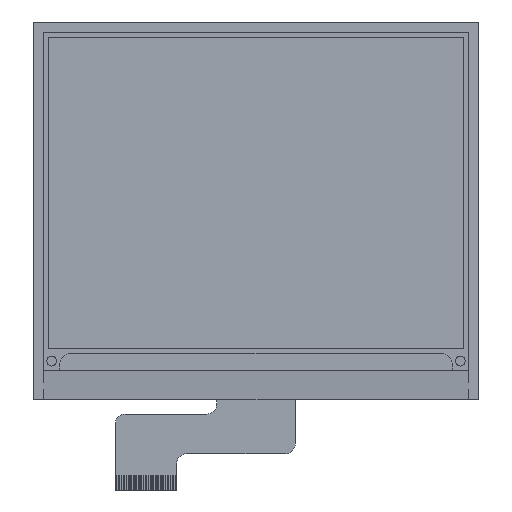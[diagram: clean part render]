
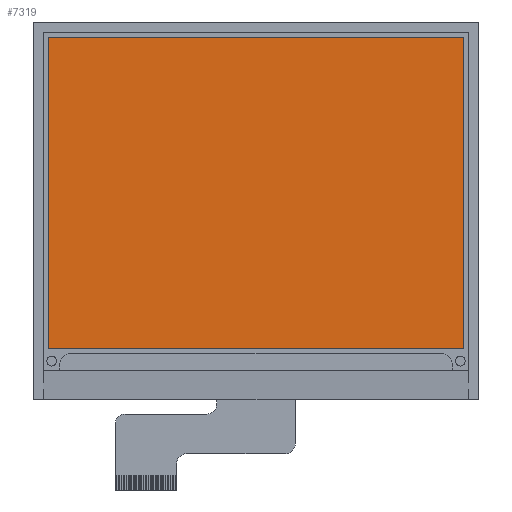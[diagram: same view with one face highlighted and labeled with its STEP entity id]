
A CAD part, top view. The second image highlights one B-rep face of the part: STEP entity #7319.
In plain terms, the highlighted planar face has unit normal (0, 0, 1).
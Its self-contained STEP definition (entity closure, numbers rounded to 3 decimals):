
#125 = PLANE ( 'NONE',  #2064 ) ;
#436 = EDGE_CURVE ( 'NONE', #1982, #5520, #7323, .T. ) ;
#500 = EDGE_LOOP ( 'NONE', ( #2892, #1276, #6138, #741 ) ) ;
#741 = ORIENTED_EDGE ( 'NONE', *, *, #8022, .F. ) ;
#858 = LINE ( 'NONE', #6011, #7395 ) ;
#1276 = ORIENTED_EDGE ( 'NONE', *, *, #3455, .F. ) ;
#1982 = VERTEX_POINT ( 'NONE', #5534 ) ;
#2047 = CARTESIAN_POINT ( 'NONE',  ( 42.4, -31.8, 1.18 ) ) ;
#2064 = AXIS2_PLACEMENT_3D ( 'NONE', #5274, #3884, #5317 ) ;
#2204 = CARTESIAN_POINT ( 'NONE',  ( -42.4, 0., 1.18 ) ) ;
#2293 = VECTOR ( 'NONE', #3031, 1000. ) ;
#2352 = LINE ( 'NONE', #6767, #2293 ) ;
#2892 = ORIENTED_EDGE ( 'NONE', *, *, #436, .F. ) ;
#3031 = DIRECTION ( 'NONE',  ( -1., 0., 0. ) ) ;
#3072 = CARTESIAN_POINT ( 'NONE',  ( 42.4, 31.8, 1.18 ) ) ;
#3455 = EDGE_CURVE ( 'NONE', #4394, #1982, #2352, .T. ) ;
#3537 = VERTEX_POINT ( 'NONE', #3072 ) ;
#3884 = DIRECTION ( 'NONE',  ( 0., 0., 1. ) ) ;
#4277 = EDGE_CURVE ( 'NONE', #3537, #4394, #6943, .T. ) ;
#4394 = VERTEX_POINT ( 'NONE', #2047 ) ;
#4731 = CARTESIAN_POINT ( 'NONE',  ( -42.4, 31.8, 1.18 ) ) ;
#4747 = DIRECTION ( 'NONE',  ( 1., 0., 0. ) ) ;
#5059 = CARTESIAN_POINT ( 'NONE',  ( 42.4, 0., 1.18 ) ) ;
#5274 = CARTESIAN_POINT ( 'NONE',  ( 0., 0., 1.18 ) ) ;
#5317 = DIRECTION ( 'NONE',  ( 1., 0., 0. ) ) ;
#5520 = VERTEX_POINT ( 'NONE', #4731 ) ;
#5534 = CARTESIAN_POINT ( 'NONE',  ( -42.4, -31.8, 1.18 ) ) ;
#5551 = DIRECTION ( 'NONE',  ( 0., 1., 0. ) ) ;
#5789 = FACE_OUTER_BOUND ( 'NONE', #500, .T. ) ;
#5850 = VECTOR ( 'NONE', #5551, 1000. ) ;
#6011 = CARTESIAN_POINT ( 'NONE',  ( 0., 31.8, 1.18 ) ) ;
#6138 = ORIENTED_EDGE ( 'NONE', *, *, #4277, .F. ) ;
#6767 = CARTESIAN_POINT ( 'NONE',  ( 0., -31.8, 1.18 ) ) ;
#6943 = LINE ( 'NONE', #5059, #8011 ) ;
#6989 = DIRECTION ( 'NONE',  ( 0., -1., 0. ) ) ;
#7319 = ADVANCED_FACE ( 'NONE', ( #5789 ), #125, .T. ) ;
#7323 = LINE ( 'NONE', #2204, #5850 ) ;
#7395 = VECTOR ( 'NONE', #4747, 1000. ) ;
#8011 = VECTOR ( 'NONE', #6989, 1000. ) ;
#8022 = EDGE_CURVE ( 'NONE', #5520, #3537, #858, .T. ) ;
